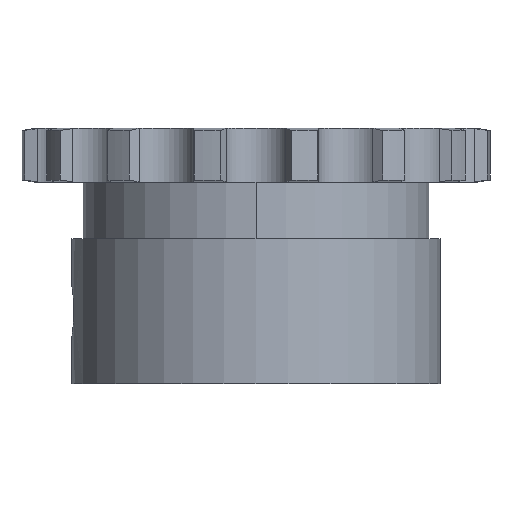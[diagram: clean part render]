
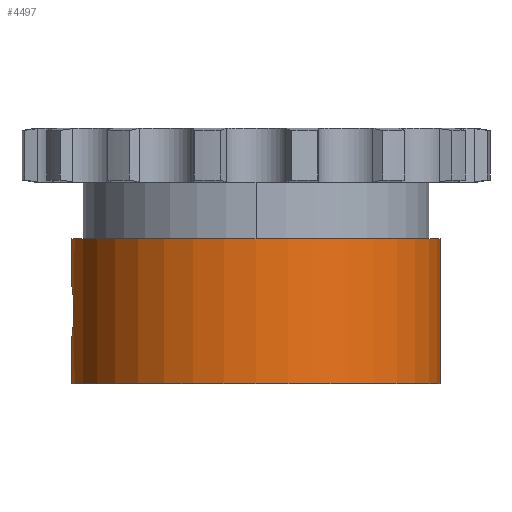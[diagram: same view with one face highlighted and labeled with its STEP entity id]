
A CAD part, front view. The second image highlights one B-rep face of the part: STEP entity #4497.
In plain terms, the highlighted cylindrical face has radius 18 mm (diameter 36 mm), a partial arc.
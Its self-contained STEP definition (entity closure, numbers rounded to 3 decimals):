
#1092=CARTESIAN_POINT('',(-18.,0.,
-12.75));
#1113=DIRECTION('',(0.,0.,1.));
#1114=VECTOR('',#1113,14.2);
#1115=CARTESIAN_POINT('',(18.,0.,-22.35));
#1116=LINE('',#1115,#1114);
#1233=CARTESIAN_POINT('',(0.,0.,-22.35));
#1234=DIRECTION('',(0.,0.,-1.));
#1235=DIRECTION('',(1.,0.,0.));
#1236=AXIS2_PLACEMENT_3D('',#1233,#1234,#1235);
#1262=CARTESIAN_POINT('',(-18.,0.,
-12.75));
#1263=CARTESIAN_POINT('',(-18.,-0.151,
-12.75));
#1264=CARTESIAN_POINT('',(-17.996,-0.448,
-12.776));
#1265=CARTESIAN_POINT('',(-17.98,-0.889,
-12.892));
#1266=CARTESIAN_POINT('',(-17.955,-1.298,
-13.081));
#1267=CARTESIAN_POINT('',(-17.924,-1.665,
-13.336));
#1268=CARTESIAN_POINT('',(-17.891,-1.983,
-13.651));
#1269=CARTESIAN_POINT('',(-17.861,-2.24,
-14.017));
#1270=CARTESIAN_POINT('',(-17.836,-2.425,
-14.418));
#1271=CARTESIAN_POINT('',(-17.821,-2.534,
-14.838));
#1272=CARTESIAN_POINT('',(-17.817,-2.557,
-15.113));
#1273=CARTESIAN_POINT('',(-17.817,-2.557,
-15.25));
#1278=DIRECTION('',(0.,0.,1.));
#1279=VECTOR('',#1278,4.6);
#1280=CARTESIAN_POINT('',(-18.,0.,
-12.75));
#1281=LINE('',#1280,#1279);
#1285=CARTESIAN_POINT('',(0.,0.,-8.15));
#1286=DIRECTION('',(0.,0.,1.));
#1287=DIRECTION('',(-1.,0.,0.));
#1288=AXIS2_PLACEMENT_3D('',#1285,#1286,#1287);
#1293=DIRECTION('',(0.,0.,1.));
#1294=VECTOR('',#1293,4.6);
#1295=CARTESIAN_POINT('',(-18.,0.,-22.35));
#1296=LINE('',#1295,#1294);
#1300=CARTESIAN_POINT('',(-17.817,-2.557,
-15.25));
#1301=CARTESIAN_POINT('',(-17.817,-2.557,
-15.387));
#1302=CARTESIAN_POINT('',(-17.821,-2.534,
-15.661));
#1303=CARTESIAN_POINT('',(-17.836,-2.425,
-16.08));
#1304=CARTESIAN_POINT('',(-17.861,-2.24,
-16.482));
#1305=CARTESIAN_POINT('',(-17.891,-1.983,
-16.848));
#1306=CARTESIAN_POINT('',(-17.924,-1.666,
-17.164));
#1307=CARTESIAN_POINT('',(-17.955,-1.298,
-17.419));
#1308=CARTESIAN_POINT('',(-17.98,-0.889,
-17.608));
#1309=CARTESIAN_POINT('',(-17.996,-0.448,
-17.724));
#1310=CARTESIAN_POINT('',(-18.,-0.151,
-17.75));
#1311=CARTESIAN_POINT('',(-18.,0.,
-17.75));
#3048=CARTESIAN_POINT('',(-18.,0.,-22.35));
#3049=CARTESIAN_POINT('',(18.,0.,-22.35));
#3050=VERTEX_POINT('',#3048);
#3051=VERTEX_POINT('',#3049);
#3211=VERTEX_POINT('',#1092);
#3214=VERTEX_POINT('',#1273);
#3216=VERTEX_POINT('',#1311);
#3226=CARTESIAN_POINT('',(18.,0.,-8.15));
#3227=CARTESIAN_POINT('',(-18.,0.,-8.15));
#3228=VERTEX_POINT('',#3226);
#3229=VERTEX_POINT('',#3227);
#4481=CARTESIAN_POINT('',(0.,0.,2.65));
#4482=DIRECTION('',(0.,0.,1.));
#4483=DIRECTION('',(1.,0.,0.));
#4484=AXIS2_PLACEMENT_3D('',#4481,#4482,#4483);
#4485=CYLINDRICAL_SURFACE('',#4484,18.);
#4487=ORIENTED_EDGE('',*,*,#4486,.F.);
#4488=ORIENTED_EDGE('',*,*,#4231,.T.);
#4489=ORIENTED_EDGE('',*,*,#4206,.T.);
#4490=ORIENTED_EDGE('',*,*,#4228,.F.);
#4491=ORIENTED_EDGE('',*,*,#4467,.T.);
#4492=ORIENTED_EDGE('',*,*,#4224,.T.);
#4494=ORIENTED_EDGE('',*,*,#4493,.F.);
#4495=EDGE_LOOP('',(#4487,#4488,#4489,#4490,#4491,#4492,#4494));
#4496=FACE_OUTER_BOUND('',#4495,.F.);
#4497=ADVANCED_FACE('',(#4496),#4485,.T.);
#1237=CIRCLE('',#1236,18.);
#1274=B_SPLINE_CURVE_WITH_KNOTS('',3,(#1262,#1263,#1264,#1265,#1266,#1267,#1268,
#1269,#1270,#1271,#1272,#1273),.UNSPECIFIED.,.F.,.F.,(4,1,1,1,1,1,1,1,1,4),
(0.,0.111,0.222,0.333,0.444,
0.556,0.667,0.778,0.889,1.),
.UNSPECIFIED.);
#1289=CIRCLE('',#1288,18.);
#1312=B_SPLINE_CURVE_WITH_KNOTS('',3,(#1300,#1301,#1302,#1303,#1304,#1305,#1306,
#1307,#1308,#1309,#1310,#1311),.UNSPECIFIED.,.F.,.F.,(4,1,1,1,1,1,1,1,1,4),
(0.,0.111,0.222,0.333,0.444,
0.556,0.667,0.778,0.889,1.),
.UNSPECIFIED.);
#4206=EDGE_CURVE('',#3229,#3228,#1289,.T.);
#4224=EDGE_CURVE('',#3050,#3216,#1296,.T.);
#4228=EDGE_CURVE('',#3051,#3228,#1116,.T.);
#4231=EDGE_CURVE('',#3211,#3229,#1281,.T.);
#4467=EDGE_CURVE('',#3051,#3050,#1237,.T.);
#4486=EDGE_CURVE('',#3211,#3214,#1274,.T.);
#4493=EDGE_CURVE('',#3214,#3216,#1312,.T.);
